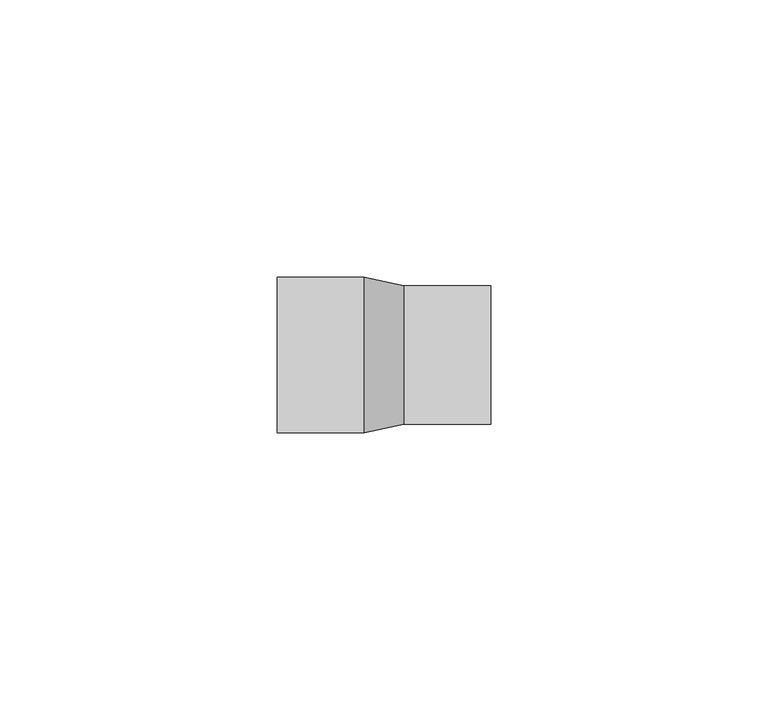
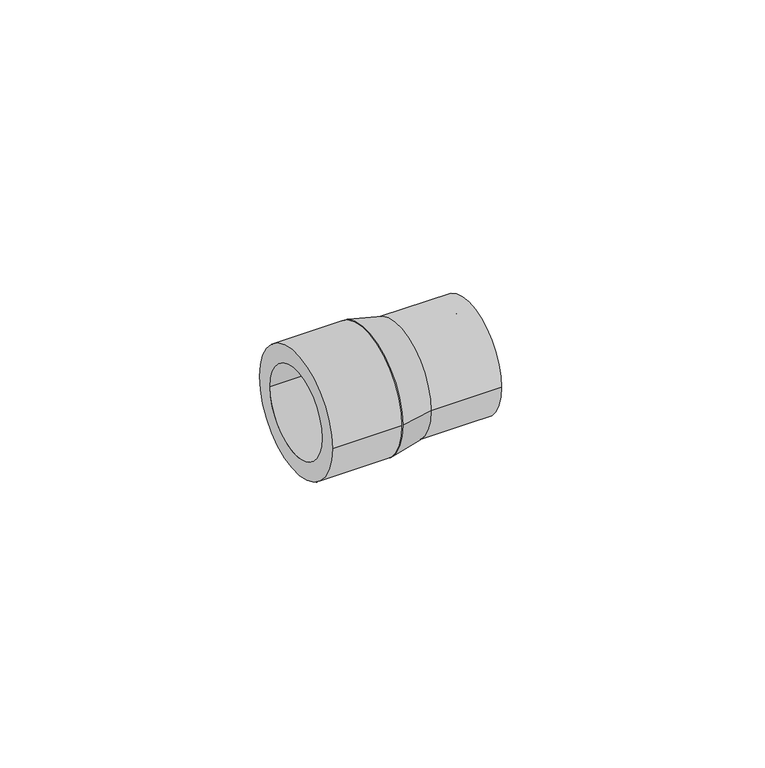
"""IFC4 building model written with IfcOpenShell, lengths in millimetres: pipe fitting geometry, 24_Муфта переходная НВ : Белый цвет."""

from ifc_helpers import new_model, si_unit, point, frame, origin, origin_2d, place, context, project, spatial, polyline, circle_curve, trimmed, segment, composite_curve, outline, extrude, source, transform, mapped, element, save
from ifc_brep_helpers import plane_surface, revolved_surface, advanced_brep


def pipe_fitting_f66fb6c4(model_context):
    return source(origin(), model_context, "Body", "SolidModel", [
        advanced_brep(
        [(3.57, -12.5, 0.0), (3.57, 12.5, 0.0), (3.57, 8.3, 0.0), (3.57, -8.3, 0.0), (-3.57, -14.0, 0.0), (-3.57, 14.0, 0.0), (-3.57, -10.0, 0.0), (-3.57, 10.0, 0.0)],
        [
            (0, 1, circle_curve(frame((3.57, 0.0, 0.0), z_axis=(1.0, 0.0, 0.0), x_axis=(0.0, -1.0, 0.0)), 12.5)),
            (1, 0, circle_curve(frame((3.57, 0.0, 0.0), z_axis=(1.0, 0.0, 0.0), x_axis=(0.0, 1.0, 0.0)), 12.5)),
            (2, 3, circle_curve(frame((3.57, 0.0, 0.0), z_axis=(-1.0, 0.0, 0.0), x_axis=(0.0, -1.0, 0.0)), 8.3)),
            (3, 2, circle_curve(frame((3.57, 0.0, 0.0), z_axis=(-1.0, 0.0, 0.0), x_axis=(0.0, 1.0, 0.0)), 8.3)),
            (4, 5, circle_curve(frame((-3.57, 0.0, 0.0), z_axis=(-1.0, 0.0, 0.0), x_axis=(0.0, 1.0, 0.0)), 14.0)),
            (5, 4, circle_curve(frame((-3.57, 0.0, 0.0), z_axis=(-1.0, 0.0, 0.0), x_axis=(0.0, -1.0, 0.0)), 14.0)),
            (6, 7, circle_curve(frame((-3.57, 0.0, 0.0), z_axis=(1.0, 0.0, 0.0), x_axis=(0.0, -1.0, 0.0)), 10.0)),
            (7, 6, circle_curve(frame((-3.57, 0.0, 0.0), z_axis=(1.0, 0.0, 0.0), x_axis=(0.0, 1.0, 0.0)), 10.0)),
            (0, 4),
            (5, 1),
            (6, 3),
            (2, 7),
        ],
        [
            plane_surface(frame((3.57, 0.0, 0.0), z_axis=(1.0, 0.0, 0.0), x_axis=(0.0, 0.0, -1.0))),
            plane_surface(frame((-3.57, 0.0, 0.0), z_axis=(-1.0, 0.0, 0.0), x_axis=(0.0, 0.0, -1.0))),
            revolved_surface(polyline([(3.569999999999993, -12.5, 0.0), (-3.5700000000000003, -14.0, 0.0)]), (63.07, 0.0, 0.0), (-1.0, 0.0, 0.0)),
            revolved_surface(polyline([(3.569999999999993, 12.5, 0.0), (-3.5700000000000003, 14.0, 0.0)]), (63.07, 0.0, 0.0), (-1.0, 0.0, 0.0)),
            revolved_surface(polyline([(-3.5700000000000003, -10.0, 0.0), (3.5700000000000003, -8.299999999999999, 0.0)]), (38.43, 0.0, 0.0), (-1.0, 0.0, 0.0)),
        ],
        [
            (0, [[1, 2], [3, 4]]),
            (1, [[5, 6], [7, 8]]),
            (2, [[-1, 9, -6, 10]]),
            (3, [[-2, -10, -5, -9]]),
            (4, [[11, -3, 12, -7]]),
            (4, [[-11, -8, -12, -4]]),
        ],
    ),
        extrude(outline(composite_curve([segment(trimmed(circle_curve(origin_2d(), 12.5), [point((-12.5, 0.0))], [point((12.5, 0.0))], False, "CARTESIAN"), True, "CONTINUOUS"), segment(trimmed(circle_curve(origin_2d(), 12.5), [point((12.5, 0.0))], [point((-12.5, 0.0))], False, "CARTESIAN"), True, "CONTINUOUS")], self_intersect=False), holes=[composite_curve([segment(trimmed(circle_curve(origin_2d(), 8.3), [point((-8.3, 0.0))], [point((8.3, 0.0))], True, "CARTESIAN"), True, "CONTINUOUS"), segment(trimmed(circle_curve(origin_2d(), 8.3), [point((8.3, 0.0))], [point((-8.3, 0.0))], True, "CARTESIAN"), True, "CONTINUOUS")], self_intersect=False)]), frame((3.57, 0.0, 0.0), z_axis=(1.0, 0.0, 0.0), x_axis=(0.0, 1.0, 0.0)), (0.0, 0.0, 1.0), 15.67),
        extrude(outline(composite_curve([segment(trimmed(circle_curve(origin_2d(), 14.0), [point((-14.0, 0.0))], [point((14.0, 0.0))], False, "CARTESIAN"), True, "CONTINUOUS"), segment(trimmed(circle_curve(origin_2d(), 14.0), [point((14.0, 0.0))], [point((-14.0, 0.0))], False, "CARTESIAN"), True, "CONTINUOUS")], self_intersect=False), holes=[composite_curve([segment(trimmed(circle_curve(origin_2d(), 10.0), [point((-10.0, 0.0))], [point((10.0, 0.0))], True, "CARTESIAN"), True, "CONTINUOUS"), segment(trimmed(circle_curve(origin_2d(), 10.0), [point((10.0, 0.0))], [point((-10.0, 0.0))], True, "CARTESIAN"), True, "CONTINUOUS")], self_intersect=False)]), frame((-19.24, 0.0, 0.0), z_axis=(1.0, 0.0, 0.0), x_axis=(0.0, 1.0, 0.0)), (0.0, 0.0, 1.0), 15.67),
    ])


if __name__ == "__main__":
    model = new_model("IFC4")
    model_context = context("Model", 3, world=origin())
    ifc_project = project(units=[si_unit("LENGTHUNIT", "METRE", prefix="MILLI")], contexts=[model_context])
    site = spatial("IfcSite", under=ifc_project)
    building = spatial("IfcBuilding", under=site)
    placement = place(None, origin())
    pipe_fitting_shape = pipe_fitting_f66fb6c4(model_context)
    element("IfcPipeFitting", 1, ObjectType="24_Муфта переходная НВ : Белый цвет", at=placement, inside=building, context=model_context, shape_type="MappedRepresentation", body=[
        mapped(pipe_fitting_shape, transform((0.0, 0.0, 0.0), x_axis=(1.0, 0.0, 0.0), y_axis=(0.0, 1.0, 0.0), z_axis=(0.0, 0.0, 1.0))),
    ])
    save(model, "model.ifc")
